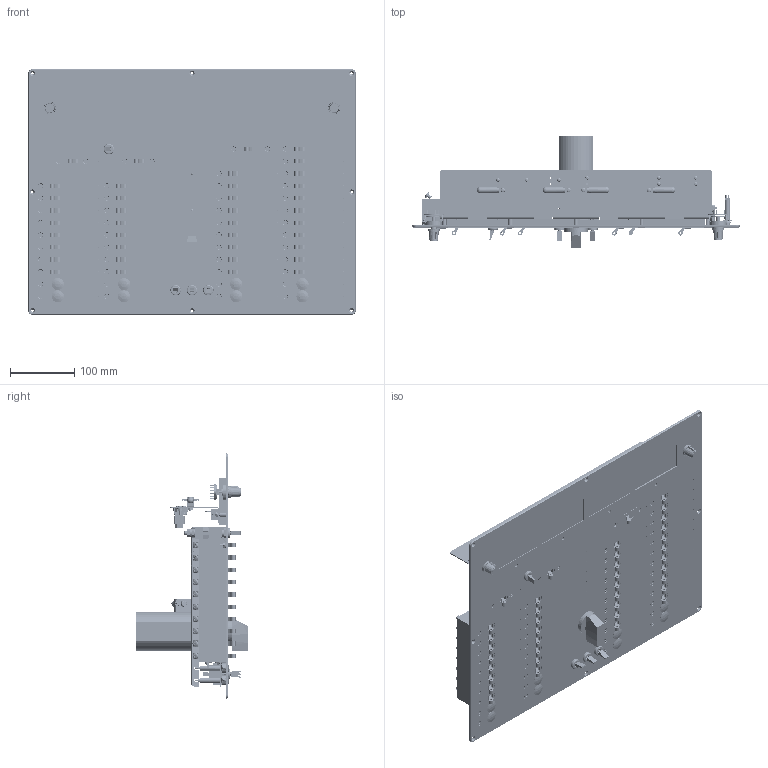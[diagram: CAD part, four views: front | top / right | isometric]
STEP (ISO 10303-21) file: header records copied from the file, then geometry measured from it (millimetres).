
FILE_DESCRIPTION((''),'2;1');
FILE_NAME('12282-0HX_3D.stp','2011-05-19T09:02:25',(''),(''),'Mechanical Desktop 2008','Mechanical Desktop 2008',', , ');
FILE_SCHEMA(('CONFIG_CONTROL_DESIGN'));
Length unit declared in the file: inch
Products named in the file (135): 12282-0HX_3D; 12280-0FX_3DA; 12280-0FX_3D; 576-0501-0_3DA; 576-0501-0_3D; 576-1501-0_3D; 576-1501-0_3DA; 576-0816-0_3DA; 576-0816-0_3D; 576-1001-0_3DA; 576-1001-0_3D; 13225-0N1_3D; 13225-0N1_3DA; 640-1026-0_3DA; 640-1026-0_3D; 588-0151-0_3D; 588-0151-0_3DA; 754-0605-1_3D; 754-0605-1_3DA; 11866-0F1_3D; 11866-0F1_3DA; 613-5050-0_3D; 613-5050-0_3DA; 718-0408-2_3DA; 718-0408-2_3D; 740-0401-2_3DA; 740-0401-2_3D; 742-0401-2_3D; 742-0401-2_3DA; 735-0440-2_3DA; 735-0440-2_3D; 573-0003-0_3DA; 573-0003-0_3D; 638-0030-0_3DA; 638-0030-0_3D; 579-1892-0_3D; 579-1892-0_3DA; 720-0605-2_3DA; 720-0605-2_3D; 735-0632-2_3DA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
Assembly tree (561 placements, depth 3):
  12282-0HX_3D
    12280-0FX_3DA
      12280-0FX_3D
    576-0501-0_3DA
      576-0501-0_3D
    576-1501-0_3D
      576-1501-0_3DA
    576-0816-0_3DA
      576-0816-0_3D
    576-1001-0_3DA
      576-1001-0_3D
    13225-0N1_3D  x4
      13225-0N1_3DA
    640-1026-0_3DA  x2
      640-1026-0_3D
    588-0151-0_3D  x2
      588-0151-0_3DA
    754-0605-1_3D  x5
      754-0605-1_3DA
    11866-0F1_3D
      11866-0F1_3DA
    613-5050-0_3D
      613-5050-0_3DA
    718-0408-2_3DA  x8
      718-0408-2_3D
    740-0401-2_3DA  x4
      740-0401-2_3D
    742-0401-2_3D  x8
      742-0401-2_3DA
    735-0440-2_3DA  x8
      735-0440-2_3D
    573-0003-0_3DA  x2
      573-0003-0_3D
    638-0030-0_3DA  x4
      638-0030-0_3D
    579-1892-0_3D  x4
      579-1892-0_3DA
    720-0605-2_3DA  x4
      720-0605-2_3D
    735-0632-2_3DA  x32
      735-0632-2_3D
    742-0601-2_3D  x31
      742-0601-2_3DA
    573-0002-0_3DA  x8
      573-0002-0_3D
    573-0001-0_3D  x8
      573-0001-0_3DA
    624-1416-6_3D  x2
      624-1416-6_3DA
    754-0604-5_3D  x14
      754-0604-5_3DA
    740-0601-2_3D  x10
      740-0601-2_3DA
    754-0608-1_3D  x10
      754-0608-1_3DA
    754-0608-2_3DA  x10
      754-0608-2_3D
    12300-9N1_3DA  x2
      12300-9N1_3D
    12300-6N1_3D  x2
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Bounding box: 508 x 172.85 x 381 mm (x, y, z)
Volume: 3417676.1 mm3; surface area: 1217595.5 mm2
Topology: 495 solids, 537 shells, 13871 faces, 33653 edges, 21491 vertices
Faces by surface type: plane 5980, cylinder 5023, cone 1690, torus 467, sphere 456, bspline 255
Entity records: 118723 total; most frequent: CARTESIAN_POINT 22115, DIRECTION 21053, ORIENTED_EDGE 18296, EDGE_CURVE 9148, AXIS2_PLACEMENT_3D 8027, VERTEX_POINT 5872, VECTOR 4999, LINE 4999
